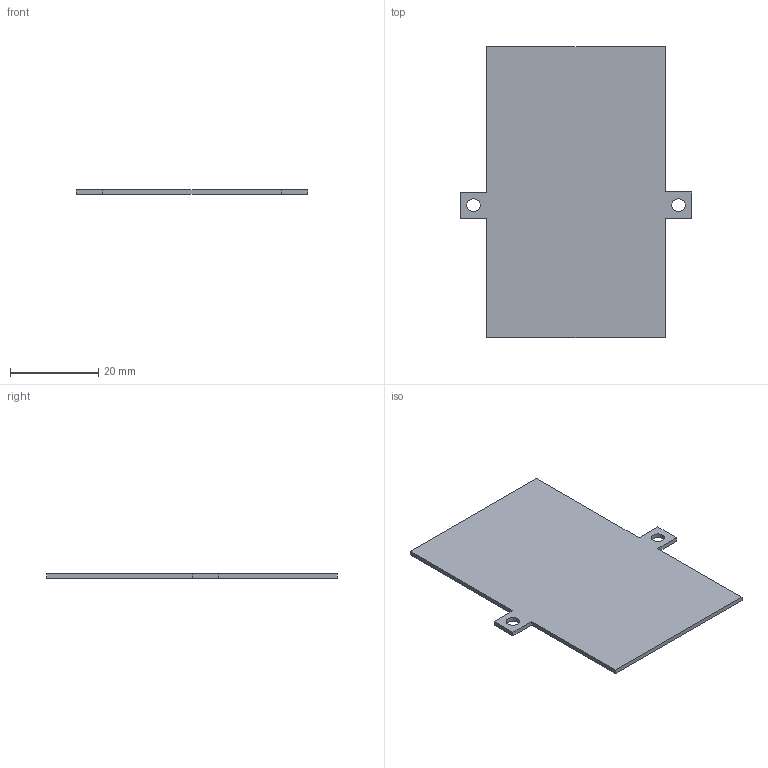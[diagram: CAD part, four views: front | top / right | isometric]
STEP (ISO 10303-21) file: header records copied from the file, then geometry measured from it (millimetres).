
FILE_DESCRIPTION(/* description */ (''),/* implementation_level */ '2;1');
FILE_NAME(/* name */ 'Base Bottom Test - Battery Lid V2',/* time_stamp */ '2025-06-03T15:55:38-04:00',/* author */ (''),/* organization */ (''),/* preprocessor_version */ 'ST-DEVELOPER v19.2',/* originating_system */ 'Rhino 8.19',/* authorisation */ '');
FILE_SCHEMA (('CONFIG_CONTROL_DESIGN'));
Length unit declared in the file: millimetre
Products named in the file (1): Document
Bounding box: 52.5 x 66.01 x 1 mm (x, y, z)
Volume: 2731 mm3; surface area: 5717.8 mm2
Topology: 1 solids, 1 shells, 18 faces, 48 edges, 32 vertices
Faces by surface type: plane 14, cylinder 4
Entity records: 616 total; most frequent: CARTESIAN_POINT 156, ORIENTED_EDGE 96, EDGE_CURVE 48, DIRECTION 38, B_SPLINE_CURVE_WITH_KNOTS 36, VERTEX_POINT 32, AXIS2_PLACEMENT_3D 28, EDGE_LOOP 22
